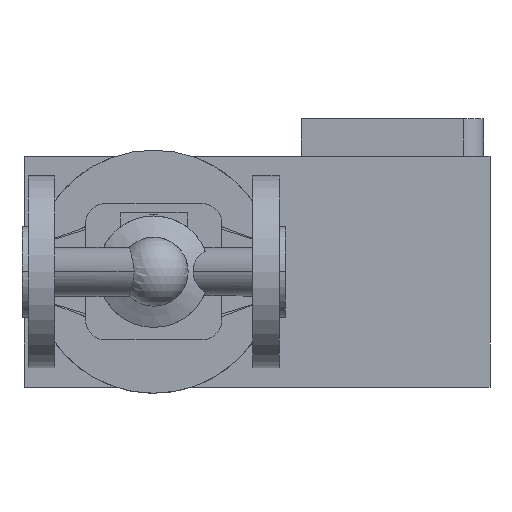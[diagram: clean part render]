
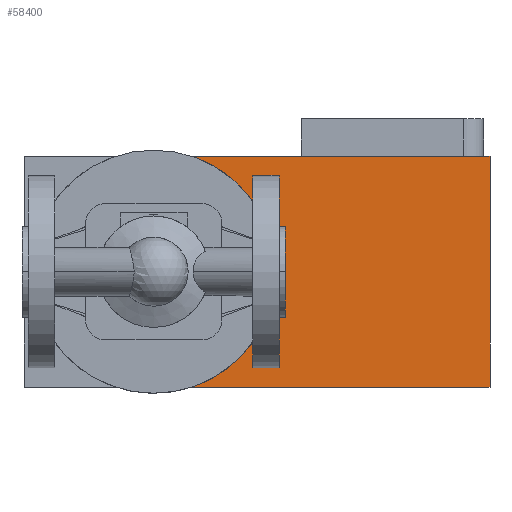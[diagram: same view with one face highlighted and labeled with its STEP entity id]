
A CAD part, front view. The second image highlights one B-rep face of the part: STEP entity #58400.
In plain terms, the highlighted planar face has unit normal (0, -1, 0).
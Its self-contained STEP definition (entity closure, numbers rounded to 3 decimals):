
#54940=CARTESIAN_POINT('',(-28.5,228.,32.));
#54950=DIRECTION('',(0.,1.,-0.));
#54960=DIRECTION('',(-1.,0.,0.));
#54970=AXIS2_PLACEMENT_3D('',#54940,#54950,#54960);
#54980=PLANE('',#54970);
#54990=CARTESIAN_POINT('',(-64.,228.,-25.));
#55000=DIRECTION('',(1.,0.,0.));
#55010=VECTOR('',#55000,1.);
#55020=LINE('',#54990,#55010);
#55170=CARTESIAN_POINT('',(-64.,228.,89.));
#55180=DIRECTION('',(1.,0.,0.));
#55190=VECTOR('',#55180,1.);
#55200=LINE('',#55170,#55190);
#55250=CARTESIAN_POINT('',(0.,228.,32.));
#55260=DIRECTION('',(0.,-1.,0.));
#55270=DIRECTION('',(-1.,0.,0.));
#55280=AXIS2_PLACEMENT_3D('',#55250,#55260,#55270);
#55290=CIRCLE('',#55280,60.);
#55480=CARTESIAN_POINT('',(18.735,228.,-25.));
#55490=VERTEX_POINT('',#55480);
#55540=CARTESIAN_POINT('',(166.,228.,-25.));
#55550=VERTEX_POINT('',#55540);
#55560=EDGE_CURVE('',#55490,#55550,#55020,.T.);
#56860=CARTESIAN_POINT('',(166.,228.,89.));
#56870=VERTEX_POINT('',#56860);
#56900=CARTESIAN_POINT('',(18.735,228.,89.));
#56910=VERTEX_POINT('',#56900);
#56920=EDGE_CURVE('',#56910,#56870,#55200,.T.);
#58170=CARTESIAN_POINT('',(60.,228.,32.));
#58180=VERTEX_POINT('',#58170);
#58190=EDGE_CURVE('',#58180,#56910,#55290,.T.);
#58270=ORIENTED_EDGE('',*,*,#56920,.F.);
#58280=CARTESIAN_POINT('',(166.,228.,32.));
#58290=DIRECTION('',(0.,0.,-1.));
#58300=VECTOR('',#58290,1.);
#58310=LINE('',#58280,#58300);
#58320=EDGE_CURVE('',#56870,#55550,#58310,.T.);
#58330=ORIENTED_EDGE('',*,*,#58320,.F.);
#58340=ORIENTED_EDGE('',*,*,#55560,.T.);
#58350=EDGE_CURVE('',#55490,#58180,#55290,.T.);
#58360=ORIENTED_EDGE('',*,*,#58350,.F.);
#58370=ORIENTED_EDGE('',*,*,#58190,.F.);
#58380=EDGE_LOOP('',(#58370,#58360,#58340,#58330,#58270));
#58390=FACE_OUTER_BOUND('',#58380,.T.);
#58400=ADVANCED_FACE('',(#58390),#54980,.F.);
